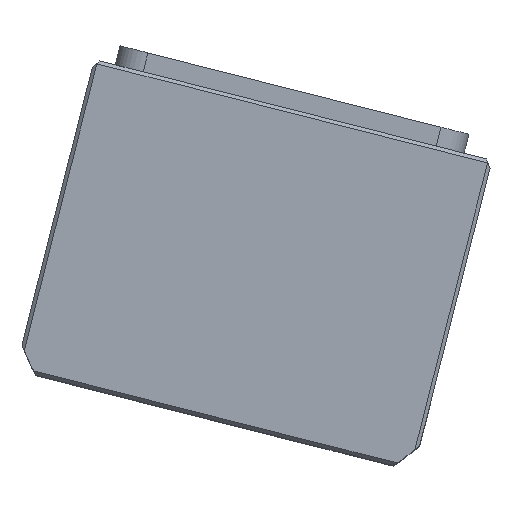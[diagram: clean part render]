
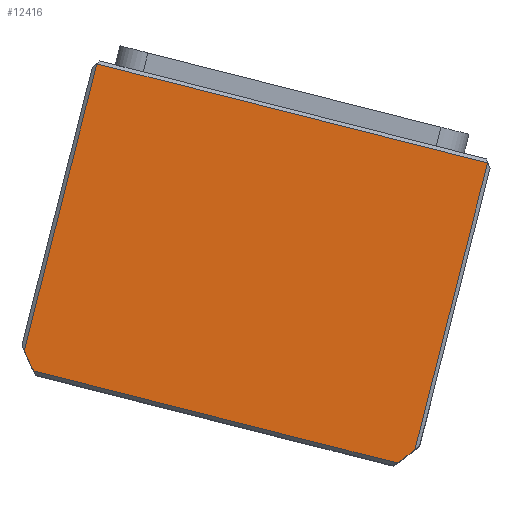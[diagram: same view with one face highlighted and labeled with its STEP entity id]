
A CAD part, top view. The second image highlights one B-rep face of the part: STEP entity #12416.
In plain terms, the highlighted planar face has unit normal (0, 0, 1) as drawn and (0, 0, -1) by its records, which use the part's own axes.
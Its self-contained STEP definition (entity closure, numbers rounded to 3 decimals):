
#222 = DIRECTION ( 'NONE',  ( 0., 0., 1. ) ) ;
#272 = EDGE_CURVE ( 'NONE', #8351, #18048, #13988, .T. ) ;
#740 = EDGE_CURVE ( 'NONE', #3020, #15064, #8873, .T. ) ;
#1361 = CARTESIAN_POINT ( 'NONE',  ( 52.098, 43.5, 0. ) ) ;
#1365 = CARTESIAN_POINT ( 'NONE',  ( 0., -43.5, 0. ) ) ;
#1587 = CARTESIAN_POINT ( 'NONE',  ( 0., 0., 0. ) ) ;
#1696 = CARTESIAN_POINT ( 'NONE',  ( 0., -2.5, 0. ) ) ;
#2261 = DIRECTION ( 'NONE',  ( 0., 0., 1. ) ) ;
#2844 = DIRECTION ( 'NONE',  ( -1., 0., 0. ) ) ;
#3020 = VERTEX_POINT ( 'NONE', #4388 ) ;
#3069 = DIRECTION ( 'NONE',  ( 0., 0., 1. ) ) ;
#4165 = AXIS2_PLACEMENT_3D ( 'NONE', #1587, #3069, #13428 ) ;
#4388 = CARTESIAN_POINT ( 'NONE',  ( 56., 38.661, 0. ) ) ;
#4748 = CARTESIAN_POINT ( 'NONE',  ( -56., 38.661, 0. ) ) ;
#6248 = CARTESIAN_POINT ( 'NONE',  ( -56., -43.5, 0. ) ) ;
#6600 = VECTOR ( 'NONE', #17523, 1000. ) ;
#6784 = CARTESIAN_POINT ( 'NONE',  ( 0., 43.5, 0. ) ) ;
#7095 = ORIENTED_EDGE ( 'NONE', *, *, #8851, .F. ) ;
#7367 = EDGE_CURVE ( 'NONE', #3020, #8326, #9577, .T. ) ;
#7837 = FACE_OUTER_BOUND ( 'NONE', #7993, .T. ) ;
#7993 = EDGE_LOOP ( 'NONE', ( #13760, #9495, #14604, #9931, #7095, #10763 ) ) ;
#8142 = DIRECTION ( 'NONE',  ( 0., -1., 0. ) ) ;
#8326 = VERTEX_POINT ( 'NONE', #16496 ) ;
#8351 = VERTEX_POINT ( 'NONE', #6248 ) ;
#8713 = CARTESIAN_POINT ( 'NONE',  ( -56., 0., 0. ) ) ;
#8851 = EDGE_CURVE ( 'NONE', #18944, #18048, #14771, .T. ) ;
#8873 = CIRCLE ( 'NONE', #9809, 69.5 ) ;
#9098 = DIRECTION ( 'NONE',  ( 1., 0., 0. ) ) ;
#9495 = ORIENTED_EDGE ( 'NONE', *, *, #7367, .T. ) ;
#9577 = LINE ( 'NONE', #18434, #13972 ) ;
#9809 = AXIS2_PLACEMENT_3D ( 'NONE', #1696, #222, #9098 ) ;
#9931 = ORIENTED_EDGE ( 'NONE', *, *, #272, .T. ) ;
#10384 = LINE ( 'NONE', #1365, #14287 ) ;
#10479 = PLANE ( 'NONE',  #4165 ) ;
#10763 = ORIENTED_EDGE ( 'NONE', *, *, #16382, .T. ) ;
#11155 = CARTESIAN_POINT ( 'NONE',  ( 0., -2.5, 0. ) ) ;
#12353 = LINE ( 'NONE', #6784, #15349 ) ;
#12416 = ADVANCED_FACE ( 'NONE', ( #7837 ), #10479, .F. ) ;
#12627 = DIRECTION ( 'NONE',  ( 1., 0., 0. ) ) ;
#12899 = EDGE_CURVE ( 'NONE', #8326, #8351, #10384, .T. ) ;
#13428 = DIRECTION ( 'NONE',  ( 1., 0., 0. ) ) ;
#13760 = ORIENTED_EDGE ( 'NONE', *, *, #740, .F. ) ;
#13972 = VECTOR ( 'NONE', #8142, 1000. ) ;
#13988 = LINE ( 'NONE', #8713, #6600 ) ;
#14287 = VECTOR ( 'NONE', #2844, 1000. ) ;
#14604 = ORIENTED_EDGE ( 'NONE', *, *, #12899, .T. ) ;
#14771 = CIRCLE ( 'NONE', #16287, 69.5 ) ;
#15064 = VERTEX_POINT ( 'NONE', #1361 ) ;
#15349 = VECTOR ( 'NONE', #18570, 1000. ) ;
#15496 = CARTESIAN_POINT ( 'NONE',  ( -52.098, 43.5, 0. ) ) ;
#16287 = AXIS2_PLACEMENT_3D ( 'NONE', #11155, #2261, #12627 ) ;
#16382 = EDGE_CURVE ( 'NONE', #18944, #15064, #12353, .T. ) ;
#16496 = CARTESIAN_POINT ( 'NONE',  ( 56., -43.5, 0. ) ) ;
#17523 = DIRECTION ( 'NONE',  ( 0., 1., 0. ) ) ;
#18048 = VERTEX_POINT ( 'NONE', #4748 ) ;
#18434 = CARTESIAN_POINT ( 'NONE',  ( 56., 0., 0. ) ) ;
#18570 = DIRECTION ( 'NONE',  ( 1., 0., 0. ) ) ;
#18944 = VERTEX_POINT ( 'NONE', #15496 ) ;
